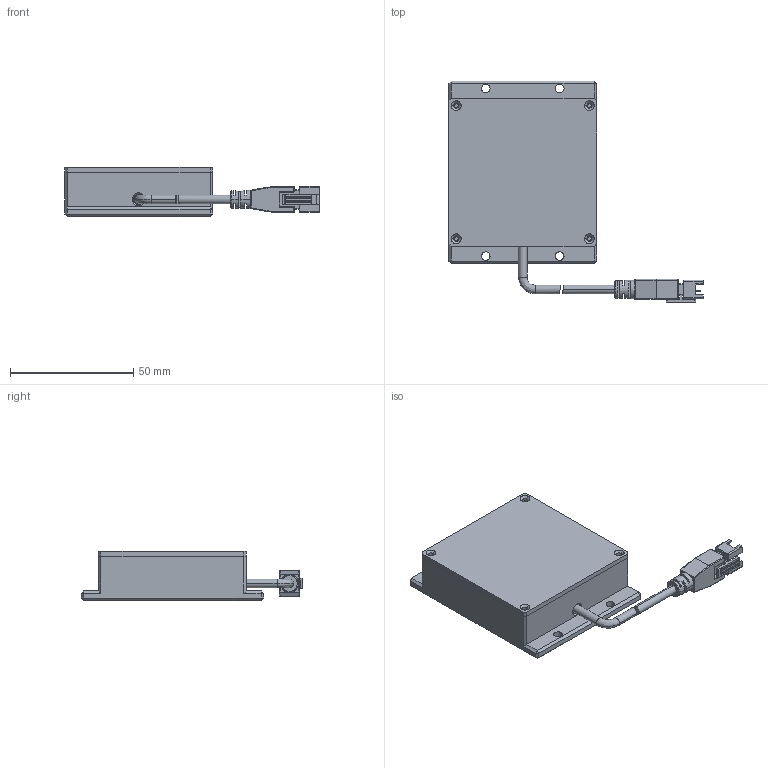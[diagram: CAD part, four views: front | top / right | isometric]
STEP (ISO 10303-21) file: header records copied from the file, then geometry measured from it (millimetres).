
FILE_DESCRIPTION (( 'STEP AP203' ), '1' );
FILE_NAME ('CRT-FLD5050-¼òÒ×3DÍ¼.STEP', '2021-11-24T01:19:02', ( 'Admin' ), ( '' ), 'SwSTEP 2.0', 'SolidWorks 2018', '' );
FILE_SCHEMA (( 'CONFIG_CONTROL_DESIGN' ));
Length unit declared in the file: millimetre
Products named in the file (1): CRT-FLD5050-潠眢3D芞
Bounding box: 103.23 x 89.95 x 20 mm (x, y, z)
Surface area: 17083.9 mm2 (no closed solid volume)
Topology: 0 solids, 4 shells, 267 faces, 739 edges, 464 vertices
Faces by surface type: plane 155, cylinder 77, bspline 19, cone 12, torus 4
Entity records: 8951 total; most frequent: CARTESIAN_POINT 2196, DIRECTION 1379, ORIENTED_EDGE 1347, EDGE_CURVE 731, LINE 477, VECTOR 477, VERTEX_POINT 464, AXIS2_PLACEMENT_3D 451
